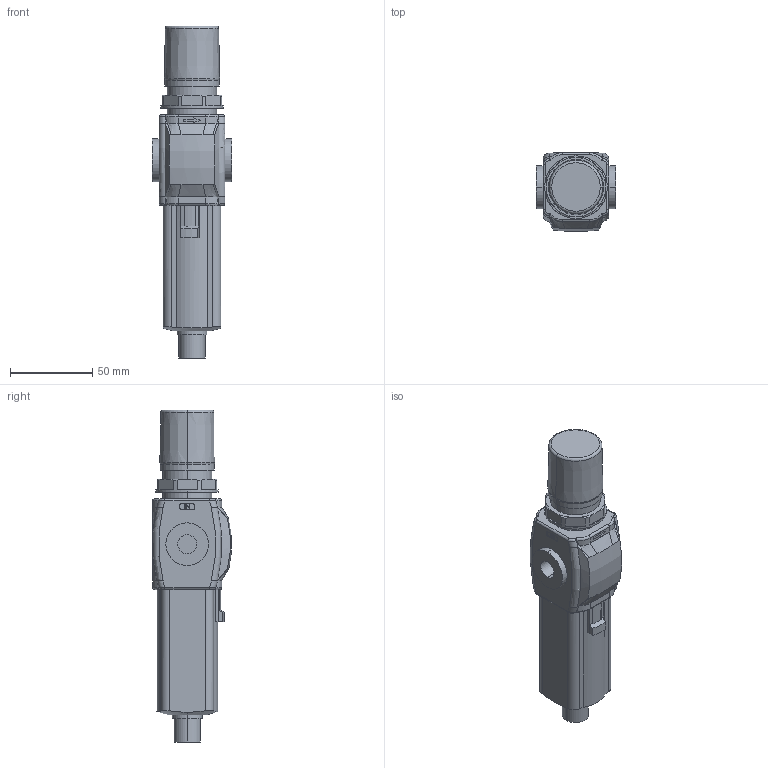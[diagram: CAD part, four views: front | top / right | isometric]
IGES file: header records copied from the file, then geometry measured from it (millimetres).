
Global section: file name: No Iges File Name specified; native system: Autodesk Inventor 2010; preprocessor: AutoDesk Inventor Iges Exporter R2010; author: valotma1; date: 20100823.141818; units: millimetre
Bounding box: 48 x 47.82 x 201.6 mm (x, y, z)
Volume: 233407.4 mm3; surface area: 36075.9 mm2
Topology: 2 solids, 3 shells, 367 faces, 882 edges, 560 vertices
Faces by surface type: plane 151, bspline 79, cylinder 69, revolution 34, torus 22, cone 12
